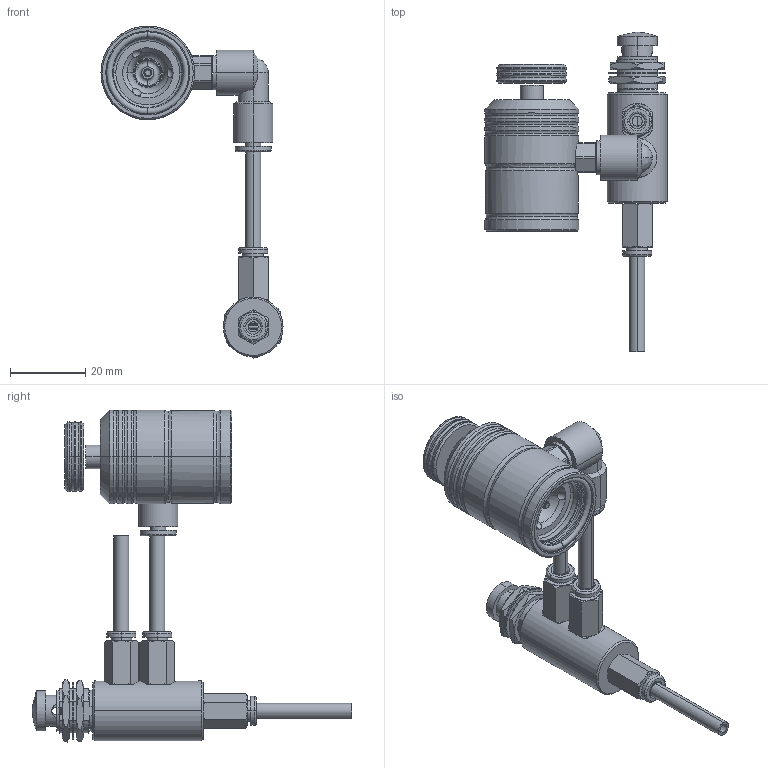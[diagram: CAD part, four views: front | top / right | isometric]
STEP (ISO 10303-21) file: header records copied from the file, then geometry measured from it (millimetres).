
FILE_DESCRIPTION (( 'STEP AP214' ), '1' );
FILE_NAME ('S11321_KIT_DDS_SeaVent_VAC-FILL_w-VALVE_20250912a.STEP', '2025-09-12T19:26:57', ( '' ), ( '' ), 'SwSTEP 2.0', 'SolidWorks 2024', '' );
FILE_SCHEMA (( 'AUTOMOTIVE_DESIGN' ));
Length unit declared in the file: millimetre
Products named in the file (1): S11321_KIT_DDS_SeaVent_VAC-FILL_w-VALVE_20250912a
Bounding box: 48.36 x 84.9 x 88.13 mm (x, y, z)
Surface area: 13643.8 mm2 (no closed solid volume)
Topology: 0 solids, 26 shells, 357 faces, 1109 edges, 776 vertices
Faces by surface type: cylinder 106, plane 95, cone 86, torus 60, bspline 7, sphere 3
Entity records: 16195 total; most frequent: CARTESIAN_POINT 6731, DIRECTION 2017, ORIENTED_EDGE 1779, EDGE_CURVE 1101, AXIS2_PLACEMENT_3D 859, VERTEX_POINT 773, CIRCLE 508, EDGE_LOOP 405
